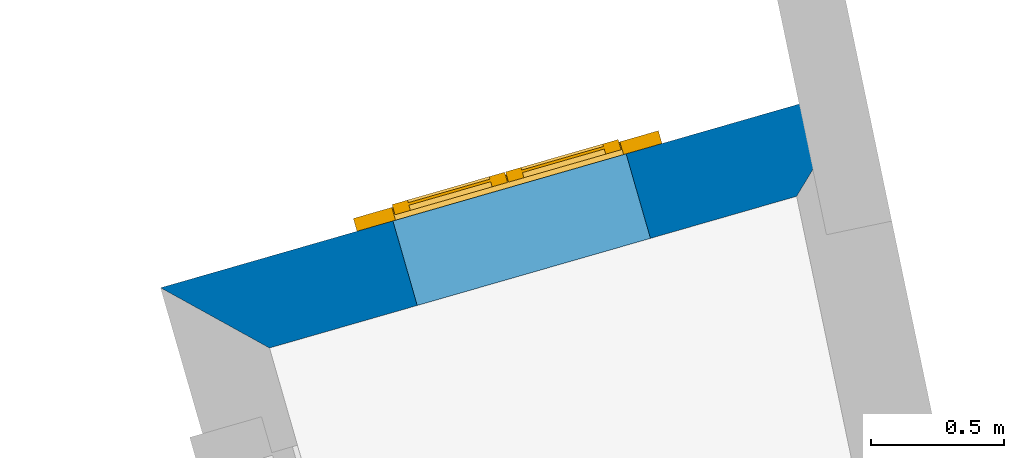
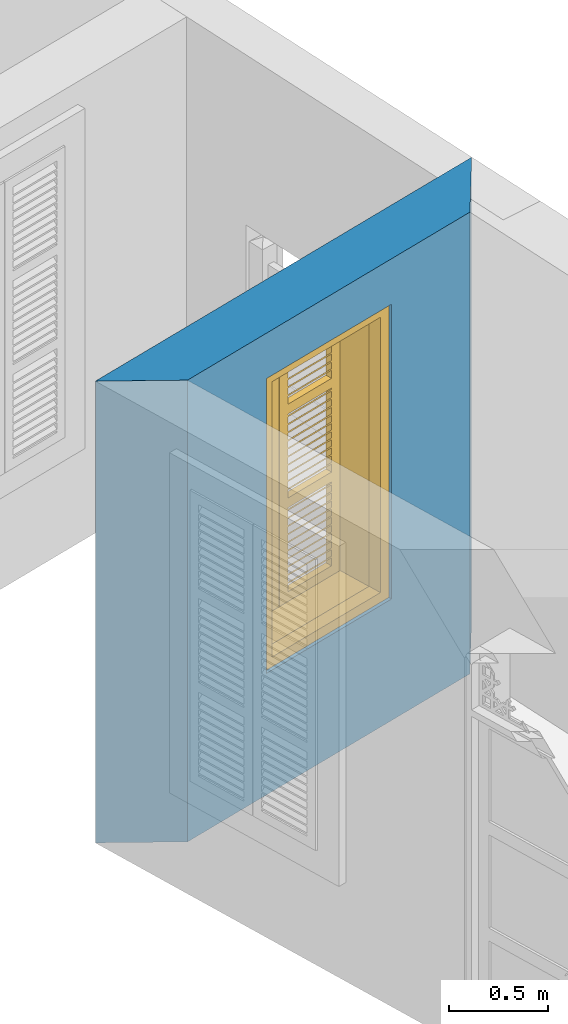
# One storey, part 13 of 16: 1 wall, 1 window, 1 opening.
"""IFC4 building model written with IfcOpenShell, lengths in metres."""

from ifc_helpers import new_model, si_unit, frame, origin, origin_with_axes, place, context, subcontext, project, spatial, polyline, outline, extrude, faceted_brep, source, transform, mapped, material, layer, layer_set, layer_usage, type_object, type_shapes, element, fill, save


model = new_model("IFC4")

# Units and contexts
model_context = context("Model", 3, world=origin_with_axes())
body_context = subcontext(model_context, "Body", "Model", "MODEL_VIEW")
ifc_project = project(units=[si_unit("PLANEANGLEUNIT", "RADIAN"), si_unit("MASSUNIT", "GRAM", prefix="KILO"), si_unit("FORCEUNIT", "NEWTON", prefix="KILO"), si_unit("LENGTHUNIT", "METRE"), si_unit("AREAUNIT", "SQUARE_METRE"), si_unit("VOLUMEUNIT", "CUBIC_METRE")], contexts=[model_context, model_context])

# Site, building, storey
site_placement = place(None, origin_with_axes())
site = spatial("IfcSite", under=ifc_project, at=site_placement, Name="Site plot-9", CompositionType="ELEMENT")
building_placement = place(None, origin_with_axes())
building = spatial("IfcBuilding", under=site, at=building_placement, Name="Building plot-9", CompositionType="ELEMENT")
storey_placement = place(None, origin_with_axes())
storey = spatial("IfcBuildingStorey", under=building, at=storey_placement, Name="plot-9 0", CompositionType="ELEMENT", Elevation=0.0)

# Wall, opening, window
ifc_material = material(Name="Masonry")
ifc_layer = layer(ifc_material, 0.33, ventilated=False)
ifc_layer_set = layer_set([ifc_layer], Name="exterior_0.08_0.25")
ifc_layer_usage = layer_usage(ifc_layer_set, "AXIS2", "POSITIVE", -0.25)
wall_type = type_object("IfcWallType", Name="exterior_0.08_0.25", PredefinedType="SOLIDWALL", material=ifc_layer_set)
wall_placement = place(storey_placement, frame((-13.1564729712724, 2.80443784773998, 0.0), z_axis=(0.0, 0.0, 1.0), x_axis=(-0.961007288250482, -0.27652304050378, 0.0)))
wall = element("IfcWall", 1, at=wall_placement, inside=storey, type_object=wall_type, material=ifc_layer_usage, Name="exterior", context=body_context, shape_type="SweptSolid", body=[
    extrude(outline(polyline([(0.0861799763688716, 0.0800000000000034), (-0.269312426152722, -0.25), (2.47325596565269, -0.250000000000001), (2.14325596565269, 0.0799999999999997), (0.0861799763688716, 0.0800000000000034)])), origin_with_axes(), (0.0, 0.0, 1.0), 2.85),
])
opening_placement = place(wall_placement, frame((0.656627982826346, 0.0, 0.75)))
opening = element("IfcOpeningElement", 2, at=opening_placement, cuts=wall, Name="My Opening", ObjectType="Opening", context=body_context, shape_type="SweptSolid", body=[
    extrude(outline(polyline([(0.0, -0.27), (0.910000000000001, -0.27), (0.910000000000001, 1.1), (1.11022302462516e-16, 1.1), (0.0, -0.27)])), origin_with_axes(), (0.0, 0.0, 1.0), 1.82),
])
window_type = type_object("IfcWindowType", Name="shuttered_big", PartitioningType="DOUBLE_PANEL_HORIZONTAL", PredefinedType="NOTDEFINED")
shared_shape = source(origin(), body_context, "Body", "Brep", [
    faceted_brep([(0.074, 0.0, 0.810667), (0.393, 0.0, 0.810667), (0.393, 0.0, 0.800667), (0.074, 0.0, 0.800667), (0.074, -0.04, 0.770667), (0.393, -0.04, 0.770667), (0.393, -0.04, 0.760667), (0.074, -0.04, 0.760667), (0.517, 0.0, 0.232), (0.836, 0.0, 0.232), (0.836, 0.0, 0.222), (0.517, 0.0, 0.222), (0.517, -0.04, 0.192), (0.836, -0.04, 0.192), (0.836, -0.04, 0.182), (0.517, -0.04, 0.182), (0.517, 0.0, 0.532), (0.836, 0.0, 0.532), (0.836, 0.0, 0.522), (0.517, 0.0, 0.522), (0.517, -0.04, 0.492), (0.836, -0.04, 0.492), (0.836, -0.04, 0.482), (0.517, -0.04, 0.482), (0.517, 0.0, 0.482), (0.836, 0.0, 0.482), (0.836, 0.0, 0.472), (0.517, 0.0, 0.472), (0.517, -0.04, 0.442), (0.836, -0.04, 0.442), (0.836, -0.04, 0.432), (0.517, -0.04, 0.432), (0.517, 0.0, 0.582), (0.836, 0.0, 0.582), (0.836, 0.0, 0.572), (0.517, 0.0, 0.572), (0.517, -0.04, 0.542), (0.836, -0.04, 0.542), (0.836, -0.04, 0.532), (0.517, -0.04, 0.532), (0.517, 0.0, 0.182), (0.836, 0.0, 0.182), (0.836, 0.0, 0.172), (0.517, 0.0, 0.172), (0.517, -0.04, 0.142), (0.836, -0.04, 0.142), (0.836, -0.04, 0.132), (0.517, -0.04, 0.132), (0.517, 0.0, 0.382), (0.836, 0.0, 0.382), (0.836, 0.0, 0.372), (0.517, 0.0, 0.372), (0.517, -0.04, 0.342), (0.836, -0.04, 0.342), (0.836, -0.04, 0.332), (0.517, -0.04, 0.332), (0.517, 0.0, 0.432), (0.836, 0.0, 0.432), (0.836, 0.0, 0.422), (0.517, 0.0, 0.422), (0.517, -0.04, 0.392), (0.836, -0.04, 0.392), (0.836, -0.04, 0.382), (0.517, -0.04, 0.382), (0.517, 0.0, 0.132), (0.836, 0.0, 0.132), (0.836, 0.0, 0.122), (0.517, 0.0, 0.122), (0.517, -0.04, 0.092), (0.836, -0.04, 0.092), (0.836, -0.04, 0.082), (0.517, -0.04, 0.082), (0.517, 0.0, 0.282), (0.836, 0.0, 0.282), (0.836, 0.0, 0.272), (0.517, 0.0, 0.272), (0.517, -0.04, 0.242), (0.836, -0.04, 0.242), (0.836, -0.04, 0.232), (0.517, -0.04, 0.232), (0.517, 0.0, 0.332), (0.836, 0.0, 0.332), (0.836, 0.0, 0.322), (0.517, 0.0, 0.322), (0.517, -0.04, 0.292), (0.836, -0.04, 0.292), (0.836, -0.04, 0.282), (0.517, -0.04, 0.282), (0.517, 0.0, 0.810667), (0.836, 0.0, 0.810667), (0.836, 0.0, 0.800667), (0.517, 0.0, 0.800667), (0.517, -0.04, 0.770667), (0.836, -0.04, 0.770667), (0.836, -0.04, 0.760667), (0.517, -0.04, 0.760667), (0.517, 0.0, 1.110667), (0.836, 0.0, 1.110667), (0.836, 0.0, 1.100667), (0.517, 0.0, 1.100667), (0.517, -0.04, 1.070667), (0.836, -0.04, 1.070667), (0.836, -0.04, 1.060667), (0.517, -0.04, 1.060667), (0.517, 0.0, 1.060667), (0.836, 0.0, 1.060667), (0.836, 0.0, 1.050667), (0.517, 0.0, 1.050667), (0.517, -0.04, 1.020667), (0.836, -0.04, 1.020667), (0.836, -0.04, 1.010667), (0.517, -0.04, 1.010667), (0.517, 0.0, 1.160667), (0.836, 0.0, 1.160667), (0.836, 0.0, 1.150667), (0.517, 0.0, 1.150667), (0.517, -0.04, 1.120667), (0.836, -0.04, 1.120667), (0.836, -0.04, 1.110667), (0.517, -0.04, 1.110667), (0.517, 0.0, 0.760667), (0.836, 0.0, 0.760667), (0.836, 0.0, 0.750667), (0.517, 0.0, 0.750667), (0.517, -0.04, 0.720667), (0.836, -0.04, 0.720667), (0.836, -0.04, 0.710667), (0.517, -0.04, 0.710667), (0.517, 0.0, 0.960667), (0.836, 0.0, 0.960667), (0.836, 0.0, 0.950667), (0.517, 0.0, 0.950667), (0.517, -0.04, 0.920667), (0.836, -0.04, 0.920667), (0.836, -0.04, 0.910667), (0.517, -0.04, 0.910667), (0.517, 0.0, 1.010667), (0.836, 0.0, 1.010667), (0.836, 0.0, 1.0), (0.517, 0.0, 1.0), (0.517, -0.04, 0.970667), (0.836, -0.04, 0.970667), (0.836, -0.04, 0.960667), (0.517, -0.04, 0.960667), (0.517, 0.0, 0.710667), (0.836, 0.0, 0.710667), (0.836, 0.0, 0.700667), (0.517, 0.0, 0.700667), (0.517, -0.04, 0.670667), (0.836, -0.04, 0.670667), (0.836, -0.04, 0.660667), (0.517, -0.04, 0.660667), (0.517, 0.0, 0.860667), (0.836, 0.0, 0.860667), (0.836, 0.0, 0.850667), (0.517, 0.0, 0.850667), (0.517, -0.04, 0.820667), (0.836, -0.04, 0.820667), (0.836, -0.04, 0.810667), (0.517, -0.04, 0.810667), (0.517, 0.0, 0.910667), (0.836, 0.0, 0.910667), (0.836, 0.0, 0.900667), (0.517, 0.0, 0.900667), (0.517, -0.04, 0.870667), (0.836, -0.04, 0.870667), (0.836, -0.04, 0.860667), (0.517, -0.04, 0.860667), (0.517, 0.0, 1.389333), (0.836, 0.0, 1.389333), (0.836, 0.0, 1.379333), (0.517, 0.0, 1.379333), (0.517, -0.04, 1.349333), (0.836, -0.04, 1.349333), (0.836, -0.04, 1.339333), (0.517, -0.04, 1.339333), (0.517, 0.0, 1.689333), (0.836, 0.0, 1.689333), (0.836, 0.0, 1.679333), (0.517, 0.0, 1.679333), (0.517, -0.04, 1.649333), (0.836, -0.04, 1.649333), (0.836, -0.04, 1.639333), (0.517, -0.04, 1.639333), (0.517, 0.0, 1.639333), (0.836, 0.0, 1.639333), (0.836, 0.0, 1.629333), (0.517, 0.0, 1.629333), (0.517, -0.04, 1.599333), (0.836, -0.04, 1.599333), (0.836, -0.04, 1.589333), (0.517, -0.04, 1.589333), (0.517, 0.0, 1.739333), (0.836, 0.0, 1.739333), (0.836, 0.0, 1.729333), (0.517, 0.0, 1.729333), (0.517, -0.04, 1.699333), (0.836, -0.04, 1.699333), (0.836, -0.04, 1.689333), (0.517, -0.04, 1.689333), (0.517, 0.0, 1.339333), (0.836, 0.0, 1.339333), (0.836, 0.0, 1.329333), (0.517, 0.0, 1.329333), (0.517, -0.04, 1.299333), (0.836, -0.04, 1.299333), (0.836, -0.04, 1.289333), (0.517, -0.04, 1.289333), (0.517, 0.0, 1.539333), (0.836, 0.0, 1.539333), (0.836, 0.0, 1.529333), (0.517, 0.0, 1.529333), (0.517, -0.04, 1.499333), (0.836, -0.04, 1.499333), (0.836, -0.04, 1.489333), (0.517, -0.04, 1.489333), (0.517, 0.0, 1.589333), (0.836, 0.0, 1.589333), (0.836, 0.0, 1.579333), (0.517, 0.0, 1.579333), (0.517, -0.04, 1.549333), (0.836, -0.04, 1.549333), (0.836, -0.04, 1.539333), (0.517, -0.04, 1.539333), (0.517, 0.0, 1.289333), (0.836, 0.0, 1.289333), (0.836, 0.0, 1.279333), (0.517, 0.0, 1.279333), (0.517, -0.04, 1.249333), (0.836, -0.04, 1.249333), (0.836, -0.04, 1.239333), (0.517, -0.04, 1.239333), (0.517, 0.0, 1.439333), (0.836, 0.0, 1.439333), (0.836, 0.0, 1.429333), (0.517, 0.0, 1.429333), (0.517, -0.04, 1.399333), (0.836, -0.04, 1.399333), (0.836, -0.04, 1.389333), (0.517, -0.04, 1.389333), (0.517, 0.0, 1.489333), (0.836, 0.0, 1.489333), (0.836, 0.0, 1.479333), (0.517, 0.0, 1.479333), (0.517, -0.04, 1.449333), (0.836, -0.04, 1.449333), (0.836, -0.04, 1.439333), (0.517, -0.04, 1.439333), (0.074, 0.0, 0.232), (0.393, 0.0, 0.232), (0.393, 0.0, 0.222), (0.074, 0.0, 0.222), (0.074, -0.04, 0.192), (0.393, -0.04, 0.192), (0.393, -0.04, 0.182), (0.074, -0.04, 0.182), (0.074, 0.0, 0.532), (0.393, 0.0, 0.532), (0.393, 0.0, 0.522), (0.074, 0.0, 0.522), (0.074, -0.04, 0.492), (0.393, -0.04, 0.492), (0.393, -0.04, 0.482), (0.074, -0.04, 0.482), (0.074, 0.0, 0.482), (0.393, 0.0, 0.482), (0.393, 0.0, 0.472), (0.074, 0.0, 0.472), (0.074, -0.04, 0.442), (0.393, -0.04, 0.442), (0.393, -0.04, 0.432), (0.074, -0.04, 0.432), (0.074, 0.0, 0.582), (0.393, 0.0, 0.582), (0.393, 0.0, 0.572), (0.074, 0.0, 0.572), (0.074, -0.04, 0.542), (0.393, -0.04, 0.542), (0.393, -0.04, 0.532), (0.074, -0.04, 0.532), (0.074, 0.0, 0.182), (0.393, 0.0, 0.182), (0.393, 0.0, 0.172), (0.074, 0.0, 0.172), (0.074, -0.04, 0.142), (0.393, -0.04, 0.142), (0.393, -0.04, 0.132), (0.074, -0.04, 0.132), (0.074, 0.0, 0.382), (0.393, 0.0, 0.382), (0.393, 0.0, 0.372), (0.074, 0.0, 0.372), (0.074, -0.04, 0.342), (0.393, -0.04, 0.342), (0.393, -0.04, 0.332), (0.074, -0.04, 0.332), (0.074, 0.0, 0.432), (0.393, 0.0, 0.432), (0.393, 0.0, 0.422), (0.074, 0.0, 0.422), (0.074, -0.04, 0.392), (0.393, -0.04, 0.392), (0.393, -0.04, 0.382), (0.074, -0.04, 0.382), (0.074, 0.0, 0.132), (0.393, 0.0, 0.132), (0.393, 0.0, 0.122), (0.074, 0.0, 0.122), (0.074, -0.04, 0.092), (0.393, -0.04, 0.092), (0.393, -0.04, 0.082), (0.074, -0.04, 0.082), (0.074, 0.0, 0.282), (0.393, 0.0, 0.282), (0.393, 0.0, 0.272), (0.074, 0.0, 0.272), (0.074, -0.04, 0.242), (0.393, -0.04, 0.242), (0.393, -0.04, 0.232), (0.074, -0.04, 0.232), (0.074, 0.0, 0.332), (0.393, 0.0, 0.332), (0.393, 0.0, 0.322), (0.074, 0.0, 0.322), (0.074, -0.04, 0.292), (0.393, -0.04, 0.292), (0.393, -0.04, 0.282), (0.074, -0.04, 0.282), (0.074, 0.0, 1.110667), (0.393, 0.0, 1.110667), (0.393, 0.0, 1.100667), (0.074, 0.0, 1.100667), (0.074, -0.04, 1.070667), (0.393, -0.04, 1.070667), (0.393, -0.04, 1.060667), (0.074, -0.04, 1.060667), (0.074, 0.0, 1.060667), (0.393, 0.0, 1.060667), (0.393, 0.0, 1.050667), (0.074, 0.0, 1.050667), (0.074, -0.04, 1.020667), (0.393, -0.04, 1.020667), (0.393, -0.04, 1.010667), (0.074, -0.04, 1.010667), (0.074, 0.0, 1.160667), (0.393, 0.0, 1.160667), (0.393, 0.0, 1.150667), (0.074, 0.0, 1.150667), (0.074, -0.04, 1.120667), (0.393, -0.04, 1.120667), (0.393, -0.04, 1.110667), (0.074, -0.04, 1.110667), (0.074, 0.0, 0.760667), (0.393, 0.0, 0.760667), (0.393, 0.0, 0.750667), (0.074, 0.0, 0.750667), (0.074, -0.04, 0.720667), (0.393, -0.04, 0.720667), (0.393, -0.04, 0.710667), (0.074, -0.04, 0.710667), (0.074, 0.0, 0.960667), (0.393, 0.0, 0.960667), (0.393, 0.0, 0.950667), (0.074, 0.0, 0.950667), (0.074, -0.04, 0.920667), (0.393, -0.04, 0.920667), (0.393, -0.04, 0.910667), (0.074, -0.04, 0.910667), (0.074, 0.0, 1.010667), (0.393, 0.0, 1.010667), (0.393, 0.0, 1.0), (0.074, 0.0, 1.0), (0.074, -0.04, 0.970667), (0.393, -0.04, 0.970667), (0.393, -0.04, 0.960667), (0.074, -0.04, 0.960667), (0.074, 0.0, 0.710667), (0.393, 0.0, 0.710667), (0.393, 0.0, 0.700667), (0.074, 0.0, 0.700667), (0.074, -0.04, 0.670667), (0.393, -0.04, 0.670667), (0.393, -0.04, 0.660667), (0.074, -0.04, 0.660667), (0.074, 0.0, 0.860667), (0.393, 0.0, 0.860667), (0.393, 0.0, 0.850667), (0.074, 0.0, 0.850667), (0.074, -0.04, 0.820667), (0.393, -0.04, 0.820667), (0.393, -0.04, 0.810667), (0.074, -0.04, 0.810667), (0.074, 0.0, 0.910667), (0.393, 0.0, 0.910667), (0.393, 0.0, 0.900667), (0.074, 0.0, 0.900667), (0.074, -0.04, 0.870667), (0.393, -0.04, 0.870667), (0.393, -0.04, 0.860667), (0.074, -0.04, 0.860667), (0.074, 0.0, 1.389333), (0.393, 0.0, 1.389333), (0.393, 0.0, 1.379333), (0.074, 0.0, 1.379333), (0.074, -0.04, 1.349333), (0.393, -0.04, 1.349333), (0.393, -0.04, 1.339333), (0.074, -0.04, 1.339333), (0.074, 0.0, 1.689333), (0.393, 0.0, 1.689333), (0.393, 0.0, 1.679333), (0.074, 0.0, 1.679333), (0.074, -0.04, 1.649333), (0.393, -0.04, 1.649333), (0.393, -0.04, 1.639333), (0.074, -0.04, 1.639333), (0.074, 0.0, 1.639333), (0.393, 0.0, 1.639333), (0.393, 0.0, 1.629333), (0.074, 0.0, 1.629333), (0.074, -0.04, 1.599333), (0.393, -0.04, 1.599333), (0.393, -0.04, 1.589333), (0.074, -0.04, 1.589333), (0.074, 0.0, 1.739333), (0.393, 0.0, 1.739333), (0.393, 0.0, 1.729333), (0.074, 0.0, 1.729333), (0.074, -0.04, 1.699333), (0.393, -0.04, 1.699333), (0.393, -0.04, 1.689333), (0.074, -0.04, 1.689333), (0.074, 0.0, 1.339333), (0.393, 0.0, 1.339333), (0.393, 0.0, 1.329333), (0.074, 0.0, 1.329333), (0.074, -0.04, 1.299333), (0.393, -0.04, 1.299333), (0.393, -0.04, 1.289333), (0.074, -0.04, 1.289333), (0.074, 0.0, 1.539333), (0.393, 0.0, 1.539333), (0.393, 0.0, 1.529333), (0.074, 0.0, 1.529333), (0.074, -0.04, 1.499333), (0.393, -0.04, 1.499333), (0.393, -0.04, 1.489333), (0.074, -0.04, 1.489333), (0.074, 0.0, 1.589333), (0.393, 0.0, 1.589333), (0.393, 0.0, 1.579333), (0.074, 0.0, 1.579333), (0.074, -0.04, 1.549333), (0.393, -0.04, 1.549333), (0.393, -0.04, 1.539333), (0.074, -0.04, 1.539333), (0.074, 0.0, 1.289333), (0.393, 0.0, 1.289333), (0.393, 0.0, 1.279333), (0.074, 0.0, 1.279333), (0.074, -0.04, 1.249333), (0.393, -0.04, 1.249333), (0.393, -0.04, 1.239333), (0.074, -0.04, 1.239333), (0.074, 0.0, 1.439333), (0.393, 0.0, 1.439333), (0.393, 0.0, 1.429333), (0.074, 0.0, 1.429333), (0.074, -0.04, 1.399333), (0.393, -0.04, 1.399333), (0.393, -0.04, 1.389333), (0.074, -0.04, 1.389333), (0.074, 0.0, 1.489333), (0.393, 0.0, 1.489333), (0.393, 0.0, 1.479333), (0.074, 0.0, 1.479333), (0.074, -0.04, 1.449333), (0.393, -0.04, 1.449333), (0.393, -0.04, 1.439333), (0.074, -0.04, 1.439333), (0.517, -0.04, 0.072), (0.457, -0.04, 0.012), (0.896, -0.04, 0.012), (0.836, -0.04, 0.072), (0.457, -0.04, 0.590667), (0.517, -0.04, 0.590667), (0.457, 0.0, 0.012), (0.896, 0.0, 0.012), (0.836, -0.04, 0.590667), (0.896, -0.04, 0.590667), (0.836, 0.0, 0.072), (0.517, 0.0, 0.072), (0.457, 0.0, 0.590667), (0.517, 0.0, 0.590667), (0.517, -0.04, 0.650667), (0.457, -0.04, 0.650667), (0.896, 0.0, 0.590667), (0.836, 0.0, 0.590667), (0.836, -0.04, 0.650667), (0.896, -0.04, 0.650667), (0.457, 0.0, 0.650667), (0.457, -0.04, 1.169333), (0.517, -0.04, 1.169333), (0.896, 0.0, 0.650667), (0.836, -0.04, 1.169333), (0.896, -0.04, 1.169333), (0.457, 0.0, 1.169333), (0.517, 0.0, 0.650667), (0.836, 0.0, 0.650667), (0.517, 0.0, 1.169333), (0.517, -0.04, 1.229333), (0.457, -0.04, 1.229333), (0.896, 0.0, 1.169333), (0.836, 0.0, 1.169333), (0.836, -0.04, 1.229333), (0.896, -0.04, 1.229333), (0.457, 0.0, 1.229333), (0.517, -0.04, 1.748), (0.457, -0.04, 1.808), (0.896, 0.0, 1.229333), (0.896, -0.04, 1.808), (0.836, -0.04, 1.748), (0.457, 0.0, 1.808), (0.517, 0.0, 1.229333), (0.836, 0.0, 1.229333), (0.517, 0.0, 1.748), (0.896, 0.0, 1.808), (0.836, 0.0, 1.748), (0.074, -0.04, 0.072), (0.014, -0.04, 0.012), (0.453, -0.04, 0.012), (0.393, -0.04, 0.072), (0.014, -0.04, 0.590667), (0.074, -0.04, 0.590667), (0.014, 0.0, 0.012), (0.453, 0.0, 0.012), (0.393, -0.04, 0.590667), (0.453, -0.04, 0.590667), (0.393, 0.0, 0.072), (0.074, 0.0, 0.072), (0.014, 0.0, 0.590667), (0.074, 0.0, 0.590667), (0.074, -0.04, 0.650667), (0.014, -0.04, 0.650667), (0.453, 0.0, 0.590667), (0.393, 0.0, 0.590667), (0.393, -0.04, 0.650667), (0.453, -0.04, 0.650667), (0.014, 0.0, 0.650667), (0.014, -0.04, 1.169333), (0.074, -0.04, 1.169333), (0.453, 0.0, 0.650667), (0.393, -0.04, 1.169333), (0.453, -0.04, 1.169333), (0.014, 0.0, 1.169333), (0.074, 0.0, 0.650667), (0.393, 0.0, 0.650667), (0.074, 0.0, 1.169333), (0.074, -0.04, 1.229333), (0.014, -0.04, 1.229333), (0.453, 0.0, 1.169333), (0.393, 0.0, 1.169333), (0.393, -0.04, 1.229333), (0.453, -0.04, 1.229333), (0.014, 0.0, 1.229333), (0.074, -0.04, 1.748), (0.014, -0.04, 1.808), (0.453, 0.0, 1.229333), (0.453, -0.04, 1.808), (0.393, -0.04, 1.748), (0.014, 0.0, 1.808), (0.074, 0.0, 1.229333), (0.393, 0.0, 1.229333), (0.074, 0.0, 1.748), (0.453, 0.0, 1.808), (0.393, 0.0, 1.748), (0.0, 0.33, 1.82), (0.91, 0.33, 1.82), (0.85, 0.33, 1.76), (0.06, 0.33, 1.76), (1.05, -0.03, 1.96), (1.05, 0.25, 1.96), (-0.14, 0.25, 1.96), (-0.14, -0.03, 1.96), (0.0, 0.25, 1.82), (0.91, 0.25, 1.82), (0.9, 0.25, 1.81), (0.01, 0.25, 1.81), (0.85, 0.33, 0.06), (0.91, 0.33, 0.0), (0.85, 0.25, 1.76), (0.06, 0.25, 1.76), (0.0, 0.33, 0.0), (0.06, 0.33, 0.06), (0.0, 0.25, 0.0), (0.910046, 0.25, 1.82), (0.91, 0.25, 0.0), (0.85, 0.25, 0.06), (0.06, 0.25, 0.06), (0.9, 0.25, 0.01), (0.9, -0.03, 0.01), (0.9, -0.03, 1.81), (0.01, -0.03, 0.01), (-0.14, -0.03, -0.14), (1.05, -0.03, -0.14), (0.01, -0.03, 1.81), (0.01, 0.25, 0.01), (1.05, 0.25, -0.14), (-0.14, 0.25, -0.14)], [[[0, 1, 2, 3]], [[1, 0, 4, 5]], [[2, 1, 5, 6]], [[6, 7, 3, 2]], [[7, 4, 0, 3]], [[5, 4, 7, 6]], [[8, 9, 10, 11]], [[12, 13, 9, 8]], [[13, 14, 10, 9]], [[14, 15, 11, 10]], [[15, 12, 8, 11]], [[13, 12, 15, 14]], [[16, 17, 18, 19]], [[20, 21, 17, 16]], [[21, 22, 18, 17]], [[22, 23, 19, 18]], [[23, 20, 16, 19]], [[21, 20, 23, 22]], [[24, 25, 26, 27]], [[28, 29, 25, 24]], [[29, 30, 26, 25]], [[30, 31, 27, 26]], [[31, 28, 24, 27]], [[29, 28, 31, 30]], [[32, 33, 34, 35]], [[36, 37, 33, 32]], [[37, 38, 34, 33]], [[38, 39, 35, 34]], [[39, 36, 32, 35]], [[37, 36, 39, 38]], [[40, 41, 42, 43]], [[44, 45, 41, 40]], [[45, 46, 42, 41]], [[46, 47, 43, 42]], [[47, 44, 40, 43]], [[45, 44, 47, 46]], [[48, 49, 50, 51]], [[52, 53, 49, 48]], [[53, 54, 50, 49]], [[54, 55, 51, 50]], [[55, 52, 48, 51]], [[53, 52, 55, 54]], [[56, 57, 58, 59]], [[60, 61, 57, 56]], [[61, 62, 58, 57]], [[62, 63, 59, 58]], [[63, 60, 56, 59]], [[61, 60, 63, 62]], [[64, 65, 66, 67]], [[68, 69, 65, 64]], [[69, 70, 66, 65]], [[70, 71, 67, 66]], [[71, 68, 64, 67]], [[69, 68, 71, 70]], [[72, 73, 74, 75]], [[76, 77, 73, 72]], [[77, 78, 74, 73]], [[78, 79, 75, 74]], [[79, 76, 72, 75]], [[77, 76, 79, 78]], [[80, 81, 82, 83]], [[84, 85, 81, 80]], [[85, 86, 82, 81]], [[86, 87, 83, 82]], [[87, 84, 80, 83]], [[85, 84, 87, 86]], [[88, 89, 90, 91]], [[92, 93, 89, 88]], [[93, 94, 90, 89]], [[94, 95, 91, 90]], [[95, 92, 88, 91]], [[93, 92, 95, 94]], [[96, 97, 98, 99]], [[100, 101, 97, 96]], [[101, 102, 98, 97]], [[102, 103, 99, 98]], [[103, 100, 96, 99]], [[101, 100, 103, 102]], [[104, 105, 106, 107]], [[108, 109, 105, 104]], [[109, 110, 106, 105]], [[110, 111, 107, 106]], [[111, 108, 104, 107]], [[109, 108, 111, 110]], [[112, 113, 114, 115]], [[116, 117, 113, 112]], [[117, 118, 114, 113]], [[118, 119, 115, 114]], [[119, 116, 112, 115]], [[117, 116, 119, 118]], [[120, 121, 122, 123]], [[124, 125, 121, 120]], [[125, 126, 122, 121]], [[126, 127, 123, 122]], [[127, 124, 120, 123]], [[125, 124, 127, 126]], [[128, 129, 130, 131]], [[132, 133, 129, 128]], [[133, 134, 130, 129]], [[134, 135, 131, 130]], [[135, 132, 128, 131]], [[133, 132, 135, 134]], [[136, 137, 138, 139]], [[140, 141, 137, 136]], [[141, 142, 138, 137]], [[142, 143, 139, 138]], [[143, 140, 136, 139]], [[141, 140, 143, 142]], [[144, 145, 146, 147]], [[148, 149, 145, 144]], [[149, 150, 146, 145]], [[150, 151, 147, 146]], [[151, 148, 144, 147]], [[149, 148, 151, 150]], [[152, 153, 154, 155]], [[156, 157, 153, 152]], [[157, 158, 154, 153]], [[158, 159, 155, 154]], [[159, 156, 152, 155]], [[157, 156, 159, 158]], [[160, 161, 162, 163]], [[164, 165, 161, 160]], [[165, 166, 162, 161]], [[166, 167, 163, 162]], [[167, 164, 160, 163]], [[165, 164, 167, 166]], [[168, 169, 170, 171]], [[172, 173, 169, 168]], [[173, 174, 170, 169]], [[174, 175, 171, 170]], [[175, 172, 168, 171]], [[173, 172, 175, 174]], [[176, 177, 178, 179]], [[180, 181, 177, 176]], [[181, 182, 178, 177]], [[182, 183, 179, 178]], [[183, 180, 176, 179]], [[181, 180, 183, 182]], [[184, 185, 186, 187]], [[188, 189, 185, 184]], [[189, 190, 186, 185]], [[190, 191, 187, 186]], [[191, 188, 184, 187]], [[189, 188, 191, 190]], [[192, 193, 194, 195]], [[196, 197, 193, 192]], [[197, 198, 194, 193]], [[198, 199, 195, 194]], [[199, 196, 192, 195]], [[197, 196, 199, 198]], [[200, 201, 202, 203]], [[204, 205, 201, 200]], [[205, 206, 202, 201]], [[206, 207, 203, 202]], [[207, 204, 200, 203]], [[205, 204, 207, 206]], [[208, 209, 210, 211]], [[212, 213, 209, 208]], [[213, 214, 210, 209]], [[214, 215, 211, 210]], [[215, 212, 208, 211]], [[213, 212, 215, 214]], [[216, 217, 218, 219]], [[220, 221, 217, 216]], [[221, 222, 218, 217]], [[222, 223, 219, 218]], [[223, 220, 216, 219]], [[221, 220, 223, 222]], [[224, 225, 226, 227]], [[228, 229, 225, 224]], [[229, 230, 226, 225]], [[230, 231, 227, 226]], [[231, 228, 224, 227]], [[229, 228, 231, 230]], [[232, 233, 234, 235]], [[236, 237, 233, 232]], [[237, 238, 234, 233]], [[238, 239, 235, 234]], [[239, 236, 232, 235]], [[237, 236, 239, 238]], [[240, 241, 242, 243]], [[244, 245, 241, 240]], [[245, 246, 242, 241]], [[246, 247, 243, 242]], [[247, 244, 240, 243]], [[245, 244, 247, 246]], [[248, 249, 250, 251]], [[252, 253, 249, 248]], [[253, 254, 250, 249]], [[254, 255, 251, 250]], [[255, 252, 248, 251]], [[253, 252, 255, 254]], [[256, 257, 258, 259]], [[260, 261, 257, 256]], [[261, 262, 258, 257]], [[262, 263, 259, 258]], [[263, 260, 256, 259]], [[261, 260, 263, 262]], [[264, 265, 266, 267]], [[268, 269, 265, 264]], [[269, 270, 266, 265]], [[270, 271, 267, 266]], [[271, 268, 264, 267]], [[269, 268, 271, 270]], [[272, 273, 274, 275]], [[276, 277, 273, 272]], [[277, 278, 274, 273]], [[278, 279, 275, 274]], [[279, 276, 272, 275]], [[277, 276, 279, 278]], [[280, 281, 282, 283]], [[284, 285, 281, 280]], [[285, 286, 282, 281]], [[286, 287, 283, 282]], [[287, 284, 280, 283]], [[285, 284, 287, 286]], [[288, 289, 290, 291]], [[292, 293, 289, 288]], [[293, 294, 290, 289]], [[294, 295, 291, 290]], [[295, 292, 288, 291]], [[293, 292, 295, 294]], [[296, 297, 298, 299]], [[300, 301, 297, 296]], [[301, 302, 298, 297]], [[302, 303, 299, 298]], [[303, 300, 296, 299]], [[301, 300, 303, 302]], [[304, 305, 306, 307]], [[308, 309, 305, 304]], [[309, 310, 306, 305]], [[310, 311, 307, 306]], [[311, 308, 304, 307]], [[309, 308, 311, 310]], [[312, 313, 314, 315]], [[316, 317, 313, 312]], [[317, 318, 314, 313]], [[318, 319, 315, 314]], [[319, 316, 312, 315]], [[317, 316, 319, 318]], [[320, 321, 322, 323]], [[324, 325, 321, 320]], [[325, 326, 322, 321]], [[326, 327, 323, 322]], [[327, 324, 320, 323]], [[325, 324, 327, 326]], [[328, 329, 330, 331]], [[332, 333, 329, 328]], [[333, 334, 330, 329]], [[334, 335, 331, 330]], [[335, 332, 328, 331]], [[333, 332, 335, 334]], [[336, 337, 338, 339]], [[340, 341, 337, 336]], [[341, 342, 338, 337]], [[342, 343, 339, 338]], [[343, 340, 336, 339]], [[341, 340, 343, 342]], [[344, 345, 346, 347]], [[348, 349, 345, 344]], [[349, 350, 346, 345]], [[350, 351, 347, 346]], [[351, 348, 344, 347]], [[349, 348, 351, 350]], [[352, 353, 354, 355]], [[356, 357, 353, 352]], [[357, 358, 354, 353]], [[358, 359, 355, 354]], [[359, 356, 352, 355]], [[357, 356, 359, 358]], [[360, 361, 362, 363]], [[364, 365, 361, 360]], [[365, 366, 362, 361]], [[366, 367, 363, 362]], [[367, 364, 360, 363]], [[366, 365, 364, 367]], [[368, 369, 370, 371]], [[372, 373, 369, 368]], [[373, 374, 370, 369]], [[374, 375, 371, 370]], [[375, 372, 368, 371]], [[373, 372, 375, 374]], [[376, 377, 378, 379]], [[380, 381, 377, 376]], [[381, 382, 378, 377]], [[382, 383, 379, 378]], [[383, 380, 376, 379]], [[381, 380, 383, 382]], [[384, 385, 386, 387]], [[388, 389, 385, 384]], [[389, 390, 386, 385]], [[390, 391, 387, 386]], [[391, 388, 384, 387]], [[389, 388, 391, 390]], [[392, 393, 394, 395]], [[396, 397, 393, 392]], [[397, 398, 394, 393]], [[398, 399, 395, 394]], [[399, 396, 392, 395]], [[397, 396, 399, 398]], [[400, 401, 402, 403]], [[404, 405, 401, 400]], [[405, 406, 402, 401]], [[406, 407, 403, 402]], [[407, 404, 400, 403]], [[405, 404, 407, 406]], [[408, 409, 410, 411]], [[412, 413, 409, 408]], [[413, 414, 410, 409]], [[414, 415, 411, 410]], [[415, 412, 408, 411]], [[414, 413, 412, 415]], [[416, 417, 418, 419]], [[420, 421, 417, 416]], [[421, 422, 418, 417]], [[422, 423, 419, 418]], [[423, 420, 416, 419]], [[421, 420, 423, 422]], [[424, 425, 426, 427]], [[428, 429, 425, 424]], [[429, 430, 426, 425]], [[430, 431, 427, 426]], [[431, 428, 424, 427]], [[429, 428, 431, 430]], [[432, 433, 434, 435]], [[436, 437, 433, 432]], [[437, 438, 434, 433]], [[438, 439, 435, 434]], [[439, 436, 432, 435]], [[437, 436, 439, 438]], [[440, 441, 442, 443]], [[444, 445, 441, 440]], [[445, 446, 442, 441]], [[446, 447, 443, 442]], [[447, 444, 440, 443]], [[445, 444, 447, 446]], [[448, 449, 450, 451]], [[452, 453, 449, 448]], [[453, 454, 450, 449]], [[454, 455, 451, 450]], [[455, 452, 448, 451]], [[453, 452, 455, 454]], [[456, 457, 458, 459]], [[460, 461, 457, 456]], [[461, 462, 458, 457]], [[462, 463, 459, 458]], [[463, 460, 456, 459]], [[461, 460, 463, 462]], [[464, 465, 466, 467]], [[468, 469, 465, 464]], [[469, 470, 466, 465]], [[470, 471, 467, 466]], [[471, 468, 464, 467]], [[469, 468, 471, 470]], [[472, 473, 474, 475]], [[476, 477, 473, 472]], [[477, 478, 474, 473]], [[478, 479, 475, 474]], [[479, 476, 472, 475]], [[477, 476, 479, 478]], [[480, 481, 482, 483]], [[484, 481, 480, 485]], [[486, 487, 482, 481]], [[488, 483, 482, 489]], [[480, 483, 490, 491]], [[486, 481, 484, 492]], [[485, 480, 491, 493]], [[485, 494, 495, 484]], [[486, 491, 490, 487]], [[496, 489, 482, 487]], [[483, 488, 497, 490]], [[498, 488, 489, 499]], [[492, 484, 495, 500]], [[486, 492, 493, 491]], [[488, 485, 493, 497]], [[494, 485, 488, 498]], [[501, 495, 494, 502]], [[490, 497, 496, 487]], [[503, 499, 489, 496]], [[504, 498, 499, 505]], [[500, 495, 501, 506]], [[507, 493, 492, 500]], [[493, 507, 508, 497]], [[494, 498, 508, 507]], [[502, 494, 507, 509]], [[502, 510, 511, 501]], [[497, 508, 503, 496]], [[512, 505, 499, 503]], [[498, 504, 513, 508]], [[514, 504, 505, 515]], [[506, 501, 511, 516]], [[500, 506, 509, 507]], [[504, 502, 509, 513]], [[510, 502, 504, 514]], [[510, 517, 518, 511]], [[508, 513, 512, 503]], [[519, 515, 505, 512]], [[515, 520, 521, 514]], [[516, 511, 518, 522]], [[523, 509, 506, 516]], [[509, 523, 524, 513]], [[510, 514, 524, 523]], [[517, 510, 523, 525]], [[518, 517, 521, 520]], [[513, 524, 519, 512]], [[526, 520, 515, 519]], [[514, 521, 527, 524]], [[522, 518, 520, 526]], [[525, 523, 516, 522]], [[521, 517, 525, 527]], [[526, 519, 524, 527]], [[525, 522, 526, 527]], [[528, 529, 530, 531]], [[532, 529, 528, 533]], [[534, 535, 530, 529]], [[536, 531, 530, 537]], [[528, 531, 538, 539]], [[534, 529, 532, 540]], [[533, 528, 539, 541]], [[533, 542, 543, 532]], [[534, 539, 538, 535]], [[544, 537, 530, 535]], [[531, 536, 545, 538]], [[546, 536, 537, 547]], [[540, 532, 543, 548]], [[534, 540, 541, 539]], [[536, 533, 541, 545]], [[542, 533, 536, 546]], [[549, 543, 542, 550]], [[538, 545, 544, 535]], [[551, 547, 537, 544]], [[552, 546, 547, 553]], [[548, 543, 549, 554]], [[555, 541, 540, 548]], [[541, 555, 556, 545]], [[542, 546, 556, 555]], [[550, 542, 555, 557]], [[550, 558, 559, 549]], [[545, 556, 551, 544]], [[560, 553, 547, 551]], [[546, 552, 561, 556]], [[562, 552, 553, 563]], [[554, 549, 559, 564]], [[548, 554, 557, 555]], [[552, 550, 557, 561]], [[558, 550, 552, 562]], [[558, 565, 566, 559]], [[556, 561, 560, 551]], [[567, 563, 553, 560]], [[563, 568, 569, 562]], [[564, 559, 566, 570]], [[571, 557, 554, 564]], [[557, 571, 572, 561]], [[558, 562, 572, 571]], [[565, 558, 571, 573]], [[566, 565, 569, 568]], [[561, 572, 567, 560]], [[574, 568, 563, 567]], [[562, 569, 575, 572]], [[570, 566, 568, 574]], [[573, 571, 564, 570]], [[569, 565, 573, 575]], [[574, 567, 572, 575]], [[573, 570, 574, 575]], [[576, 577, 578, 579]], [[580, 581, 582, 583]], [[576, 584, 585, 577]], [[582, 581, 586, 587]], [[588, 578, 577, 589]], [[579, 578, 590, 591]], [[592, 576, 579, 593]], [[576, 592, 594, 584]], [[595, 584, 591, 590]], [[596, 585, 595]], [[595, 590, 597]], [[595, 597, 596]], [[589, 577, 585, 596]], [[578, 588, 597, 590]], [[589, 592, 593, 588]], [[593, 579, 591, 598]], [[592, 589, 596, 594]], [[598, 591, 584, 594]], [[594, 596, 597, 598]], [[588, 593, 598, 597]], [[599, 600, 601, 586]], [[602, 603, 604, 600]], [[601, 605, 587, 586]], [[600, 599, 606, 602]], [[607, 604, 603, 608]], [[599, 607, 608, 606]], [[605, 602, 606, 587]], [[602, 605, 583, 603]], [[600, 604, 580, 601]], [[580, 583, 605, 601]], [[606, 608, 582, 587]], [[599, 586, 581, 607]], [[582, 608, 603, 583]], [[580, 604, 607, 581]]]),
])
type_shapes(window_type, [shared_shape])
window_placement = place(storey_placement, frame((-13.8621584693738, 2.88233704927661, 0.75), z_axis=(0.0, 0.0, 1.0), x_axis=(-0.874516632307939, -0.25163596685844, 0.0)))
window = element("IfcWindow", 3, at=window_placement, inside=storey, type_object=window_type, Name="bedroom sahn window", OverallHeight=1.82, OverallWidth=0.91, context=body_context, shape_type="MappedRepresentation", body=[
    mapped(shared_shape, transform((0.0, 0.0, 0.0), scale=1.0)),
])
fill(opening, window)

save(model, "model.ifc")
